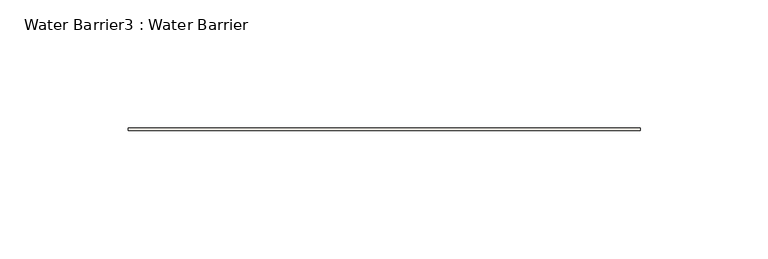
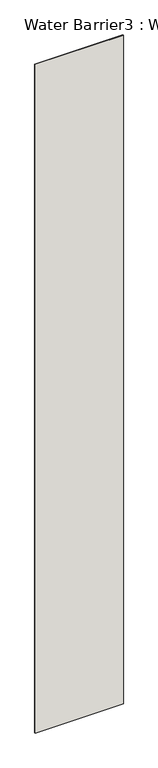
"""IFC4 building model written with IfcOpenShell, lengths in millimetres: wall geometry, Water Barrier3 : Water Barrier."""

import ifcopenshell
import ifcopenshell.guid

model = None  # the IFC model being written
_history = None  # IfcOwnerHistory: only IFC2X3 demands one
_inside = {}  # id of a spatial element -> (the spatial element, [elements in it])
_under = {}  # id of a project, library or spatial element -> (it, [spatial elements below it])
_declared = {}  # id of a project -> (the project, [libraries it declares])
_typed = {}  # id of a type object -> (the type object, [elements of that type])
_made_of = {}  # id of a material, layer set ... -> (it, [elements and type objects made of it])


def new_model(schema):
    """Start an empty IFC model of exactly this schema.

    Asked for "IFC4X3", IfcOpenShell would pick the latest addendum, in which some entities
    have other attributes; the version numbers below select the first issue.
    IFC2X3 requires an IfcOwnerHistory on every rooted entity: one is made here for all.
    """
    global model, _history
    if schema == "IFC4X3":
        model = ifcopenshell.file(schema_version=(4, 3, 0, 0))
    else:
        model = ifcopenshell.file(schema=schema)
    _inside.clear()
    _under.clear()
    _declared.clear()
    _typed.clear()
    _made_of.clear()
    _history = None
    if model.schema == "IFC2X3":
        org = make("IfcOrganization", Name="unknown")
        user = make(
            "IfcPersonAndOrganization",
            ThePerson=make("IfcPerson", FamilyName="unknown"),
            TheOrganization=org,
        )
        app = make(
            "IfcApplication",
            ApplicationDeveloper=org,
            Version="unknown",
            ApplicationFullName="unknown",
            ApplicationIdentifier="unknown",
        )
        _history = make(
            "IfcOwnerHistory",
            OwningUser=user,
            OwningApplication=app,
            ChangeAction="ADDED",
            CreationDate=0,
        )
    return model


def make(cls, **values):
    """One entity of the class cls with the attributes given. An attribute that is None is left unset."""
    return model.create_entity(
        cls, **{name: value for name, value in values.items() if value is not None}
    )


def rooted(cls, **values):
    """An entity with a GlobalId (a new one), such as an element, a storey or a relation."""
    return make(cls, GlobalId=ifcopenshell.guid.new(), OwnerHistory=_history, **values)


def si_unit(unit_type, name, prefix=None):
    """IfcSIUnit, for example si_unit("LENGTHUNIT", "METRE", prefix="MILLI")."""
    return make("IfcSIUnit", UnitType=unit_type, Prefix=prefix, Name=name)


def assignment(units):
    """IfcUnitAssignment: the units of a project."""
    return None if units is None else make("IfcUnitAssignment", Units=units)


def point(xyz):
    """IfcCartesianPoint."""
    return None if xyz is None else make("IfcCartesianPoint", Coordinates=xyz)


def direction(xyz):
    """IfcDirection."""
    return None if xyz is None else make("IfcDirection", DirectionRatios=xyz)


def frame(location, z_axis=None, x_axis=None):
    """IfcAxis2Placement3D, a coordinate frame: its origin and axes. An axis left out is left unset."""
    return make(
        "IfcAxis2Placement3D",
        Location=point(location),
        Axis=direction(z_axis),
        RefDirection=direction(x_axis),
    )


def origin():
    """The frame at (0, 0, 0) with its axes left unset."""
    return frame((0.0, 0.0, 0.0))


def origin_with_axes():
    """The frame at (0, 0, 0) with the z axis (0, 0, 1) and the x axis (1, 0, 0) written out."""
    return frame((0.0, 0.0, 0.0), z_axis=(0.0, 0.0, 1.0), x_axis=(1.0, 0.0, 0.0))


def place(relative_to, where):
    """IfcLocalPlacement: puts the frame where relative to a parent placement (None: the world)."""
    return make(
        "IfcLocalPlacement", PlacementRelTo=relative_to, RelativePlacement=where
    )


def context(
    kind, dimensions, precision=None, world=None, true_north=None, identifier=None
):
    """IfcGeometricRepresentationContext, for example the 3D "Model" context."""
    return make(
        "IfcGeometricRepresentationContext",
        ContextIdentifier=identifier,
        ContextType=kind,
        CoordinateSpaceDimension=dimensions,
        Precision=precision,
        WorldCoordinateSystem=world,
        TrueNorth=true_north,
    )


def project(units=None, contexts=None):
    """IfcProject with its units and contexts."""
    return rooted(
        "IfcProject",
        Name="project",
        RepresentationContexts=contexts,
        UnitsInContext=assignment(units),
    )


def spatial(cls, under=None, at=None, **own):
    """A site, building, storey or space (cls), placed at a placement, below another one or the project."""
    s = rooted(cls, ObjectPlacement=at, **own)
    if under is not None:
        _under.setdefault(under.id(), (under, []))[1].append(s)
    return s


def polyline(points):
    """IfcPolyline through the points."""
    return make("IfcPolyline", Points=[point(p) for p in points])


def outline(outer, holes=None, kind="AREA"):
    """IfcArbitraryClosedProfileDef: a profile drawn as a closed curve; with holes, ...WithVoids."""
    if holes is None:
        return make("IfcArbitraryClosedProfileDef", ProfileType=kind, OuterCurve=outer)
    return make(
        "IfcArbitraryProfileDefWithVoids",
        ProfileType=kind,
        OuterCurve=outer,
        InnerCurves=holes,
    )


def extrude(swept, where, along, depth):
    """IfcExtrudedAreaSolid: the profile swept, set in the frame where, extruded along a direction by depth."""
    return make(
        "IfcExtrudedAreaSolid",
        SweptArea=swept,
        Position=where,
        ExtrudedDirection=direction(along),
        Depth=depth,
    )


def shape(context_of_items, identifier, shape_type, items):
    """IfcShapeRepresentation: the items that make up one representation, for example the "Body"."""
    return make(
        "IfcShapeRepresentation",
        ContextOfItems=context_of_items,
        RepresentationIdentifier=identifier,
        RepresentationType=shape_type,
        Items=items,
    )


def source(mapping_origin, context_of_items, identifier, shape_type, items):
    """IfcRepresentationMap: a shape defined once, which mapped items show again and again."""
    return make(
        "IfcRepresentationMap",
        MappingOrigin=mapping_origin,
        MappedRepresentation=shape(context_of_items, identifier, shape_type, items),
    )


def transform(
    local_origin,
    x_axis=None,
    y_axis=None,
    z_axis=None,
    scale=None,
    scale2=None,
    scale3=None,
    uniform=True,
):
    """IfcCartesianTransformationOperator3D, or its non-uniform kind. x_axis, y_axis, z_axis: its Axis1, 2, 3."""
    if uniform:
        return make(
            "IfcCartesianTransformationOperator3D",
            Axis1=direction(x_axis),
            Axis2=direction(y_axis),
            LocalOrigin=point(local_origin),
            Scale=scale,
            Axis3=direction(z_axis),
        )
    return make(
        "IfcCartesianTransformationOperator3DnonUniform",
        Axis1=direction(x_axis),
        Axis2=direction(y_axis),
        LocalOrigin=point(local_origin),
        Scale=scale,
        Axis3=direction(z_axis),
        Scale2=scale2,
        Scale3=scale3,
    )


def mapped(mapping_source, mapping_target):
    """IfcMappedItem: shows the shape of a source again, moved by a transform."""
    return make(
        "IfcMappedItem", MappingSource=mapping_source, MappingTarget=mapping_target
    )


def made_of(thing, what):
    """Note that an element or type object is made of a material, layer set ...; save() writes the relation."""
    if what is not None:
        _made_of.setdefault(what.id(), (what, []))[1].append(thing)
    return thing


def element(
    cls,
    number,
    at=None,
    inside=None,
    cuts=None,
    type_object=None,
    material=None,
    context=None,
    identifier="Body",
    shape_type=None,
    held_by="IfcProductDefinitionShape",
    body=None,
    shapes=None,
    **own,
):
    """One element of the class cls, such as IfcWall. Its Tag is "e" and its number.

    at: its placement. inside: the storey or other place that contains it. cuts: it is an
    opening in that element (IfcRelVoidsElement). A single representation is given by context,
    identifier, shape_type and body (its items); several are given by shapes. held_by: the class
    of the entity that holds the representations. save() writes the other relations.
    """
    e = rooted(cls, Tag="e%d" % number, ObjectPlacement=at, **own)
    if body is not None:
        shapes = [shape(context, identifier, shape_type, body)]
    if shapes is not None:
        e.Representation = make(held_by, Representations=shapes)
    if inside is not None:
        _inside.setdefault(inside.id(), (inside, []))[1].append(e)
    if cuts is not None:
        rooted(
            "IfcRelVoidsElement", RelatingBuildingElement=cuts, RelatedOpeningElement=e
        )
    if type_object is not None:
        _typed.setdefault(type_object.id(), (type_object, []))[1].append(e)
    return made_of(e, material)


def aggregate(whole, parts):
    """IfcRelAggregates: a whole, such as a stair, and the parts it consists of."""
    return rooted("IfcRelAggregates", RelatingObject=whole, RelatedObjects=parts)


def save(model, path):
    """Write the relations noted so far, then the file.

    IfcRelAggregates (storeys below a building ...), IfcRelContainedInSpatialStructure (elements
    in a storey), IfcRelDefinesByType, IfcRelAssociatesMaterial and IfcRelDeclares: one each for
    every whole, place, type object, material and project.
    """
    for whole, parts in _under.values():
        aggregate(whole, parts)
    for where, things in _inside.values():
        rooted(
            "IfcRelContainedInSpatialStructure",
            RelatedElements=things,
            RelatingStructure=where,
        )
    for kind, things in _typed.values():
        rooted("IfcRelDefinesByType", RelatedObjects=things, RelatingType=kind)
    for what, things in _made_of.values():
        rooted("IfcRelAssociatesMaterial", RelatedObjects=things, RelatingMaterial=what)
    for by, libraries in _declared.values():
        rooted("IfcRelDeclares", RelatingContext=by, RelatedDefinitions=libraries)
    model.write(path)


def water_barrier3_water_barrier_b82c4e61(model_context):
    return source(origin(), model_context, "Body", "SweptSolid", [
        extrude(outline(polyline([(20809.7747715, 14985.3863455), (20609.7747715, 14985.3863455), (20609.7747715, 14986.3863455), (20809.7747715, 14986.3863455), (20809.7747715, 14985.3863455)])), origin_with_axes(), (0.0, 0.0, 1.0), 1600.0),
    ])


if __name__ == "__main__":
    model = new_model("IFC4")
    model_context = context("Model", 3, world=origin())
    ifc_project = project(units=[si_unit("LENGTHUNIT", "METRE", prefix="MILLI")], contexts=[model_context])
    site = spatial("IfcSite", under=ifc_project)
    building = spatial("IfcBuilding", under=site)
    placement = place(None, origin())
    water_barrier3_water_barrier_shape = water_barrier3_water_barrier_b82c4e61(model_context)
    element("IfcWall", 1, ObjectType="Water Barrier3 : Water Barrier", at=placement, inside=building, context=model_context, shape_type="MappedRepresentation", body=[
        mapped(water_barrier3_water_barrier_shape, transform((0.0, 0.0, 0.0), x_axis=(1.0, 0.0, 0.0), y_axis=(0.0, 1.0, 0.0), z_axis=(0.0, 0.0, 1.0))),
    ])
    save(model, "model.ifc")
